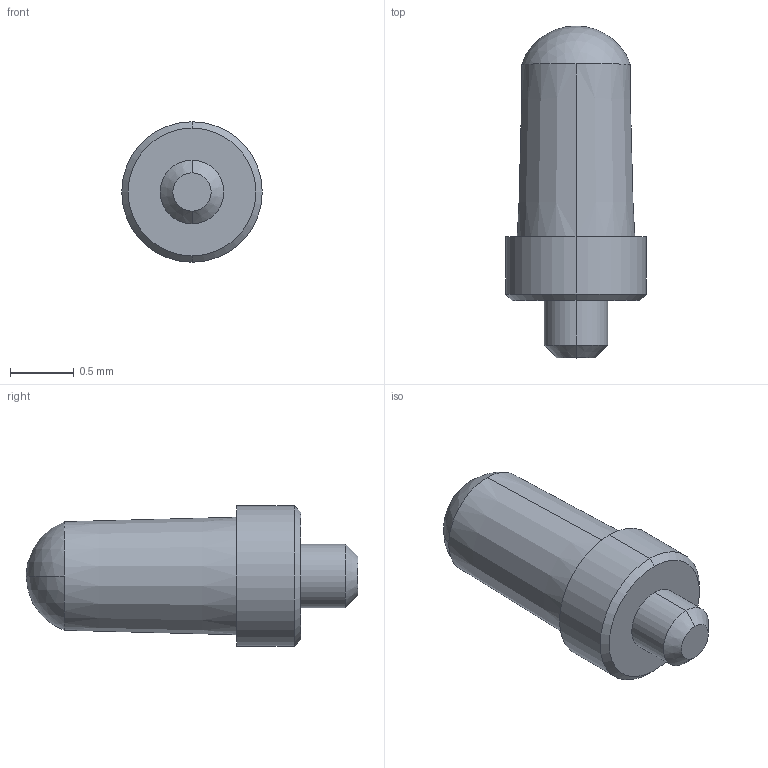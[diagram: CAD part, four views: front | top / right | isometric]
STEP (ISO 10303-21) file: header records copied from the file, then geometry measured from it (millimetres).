
FILE_DESCRIPTION((''),'2;1');
FILE_NAME('PIN__W___ANY_PRT','2008-06-30T',('GRA'),(''),'PRO/ENGINEER BY PARAMETRIC TECHNOLOGY CORPORATION, 2006170','PRO/ENGINEER BY PARAMETRIC TECHNOLOGY CORPORATION, 2006170','');
FILE_SCHEMA(('CONFIG_CONTROL_DESIGN'));
Length unit declared in the file: millimetre
Products named in the file (1): PIN__W___ANY_PRT
Bounding box: 1.1 x 2.6 x 1.1 mm (x, y, z)
Volume: 1.5 mm3; surface area: 8.1 mm2
Topology: 1 solids, 1 shells, 15 faces, 30 edges, 19 vertices
Faces by surface type: cone 6, cylinder 4, plane 3, sphere 2
Entity records: 438 total; most frequent: DIRECTION 80, CARTESIAN_POINT 64, ORIENTED_EDGE 60, AXIS2_PLACEMENT_3D 35, EDGE_CURVE 30, CIRCLE 20, VERTEX_POINT 19, EDGE_LOOP 17
